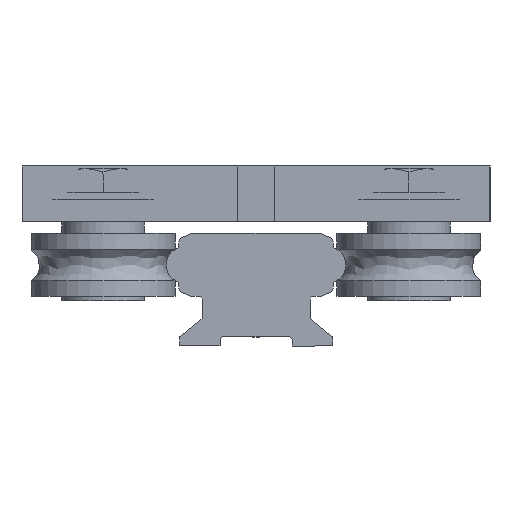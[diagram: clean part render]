
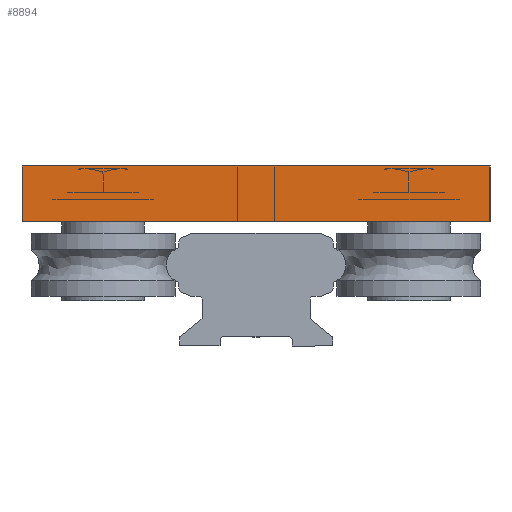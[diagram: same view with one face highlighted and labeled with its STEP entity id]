
A CAD part, left-side view. The second image highlights one B-rep face of the part: STEP entity #8894.
In plain terms, the highlighted planar face has unit normal (-1, 0, 0).
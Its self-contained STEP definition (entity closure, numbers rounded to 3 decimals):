
#8726=CARTESIAN_POINT('',(0.0,-26.,11.));
#8727=VERTEX_POINT('',#8726);
#8734=CARTESIAN_POINT('',(0.0,-26.,4.8));
#8735=VERTEX_POINT('',#8734);
#8736=CARTESIAN_POINT('',(0.0,-26.,11.));
#8737=DIRECTION('',(0.0,0.0,-1.0));
#8738=VECTOR('',#8737,6.2);
#8739=LINE('',#8736,#8738);
#8740=EDGE_CURVE('',#8727,#8735,#8739,.T.);
#8764=CARTESIAN_POINT('',(0.0,26.,11.));
#8765=VERTEX_POINT('',#8764);
#8772=CARTESIAN_POINT('',(0.0,26.,11.));
#8773=DIRECTION('',(0.0,-1.0,0.0));
#8774=VECTOR('',#8773,52.);
#8775=LINE('',#8772,#8774);
#8776=EDGE_CURVE('',#8765,#8727,#8775,.T.);
#8819=CARTESIAN_POINT('',(0.0,26.,4.8));
#8820=VERTEX_POINT('',#8819);
#8827=CARTESIAN_POINT('',(0.0,26.,4.8));
#8828=DIRECTION('',(0.0,0.0,1.0));
#8829=VECTOR('',#8828,6.2);
#8830=LINE('',#8827,#8829);
#8831=EDGE_CURVE('',#8820,#8765,#8830,.T.);
#8849=CARTESIAN_POINT('',(0.0,-26.,4.8));
#8850=DIRECTION('',(0.0,1.0,0.0));
#8851=VECTOR('',#8850,52.);
#8852=LINE('',#8849,#8851);
#8853=EDGE_CURVE('',#8735,#8820,#8852,.T.);
#8883=CARTESIAN_POINT('',(0.0,0.0,7.9));
#8884=DIRECTION('',(1.0,0.0,0.0));
#8885=DIRECTION('',(0.0,0.0,-1.0));
#8886=AXIS2_PLACEMENT_3D('',#8883,#8884,#8885);
#8887=PLANE('',#8886);
#8888=ORIENTED_EDGE('',*,*,#8853,.F.);
#8889=ORIENTED_EDGE('',*,*,#8740,.F.);
#8890=ORIENTED_EDGE('',*,*,#8776,.F.);
#8891=ORIENTED_EDGE('',*,*,#8831,.F.);
#8892=EDGE_LOOP('',(#8888,#8889,#8890,#8891));
#8893=FACE_OUTER_BOUND('',#8892,.T.);
#8894=ADVANCED_FACE('',(#8893),#8887,.F.);
